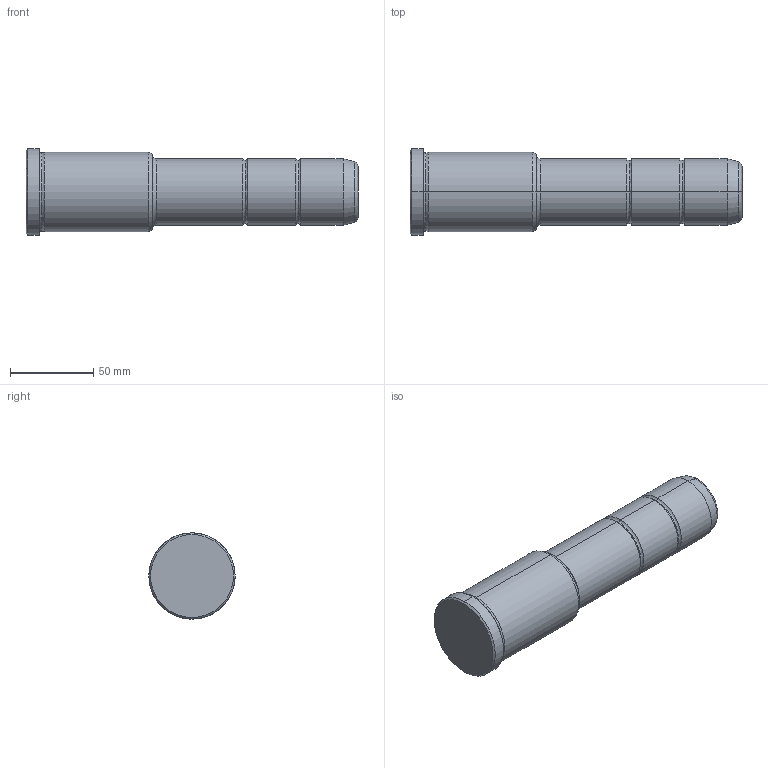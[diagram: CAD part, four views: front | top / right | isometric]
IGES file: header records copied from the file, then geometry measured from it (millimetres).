
Start section: START RECORD GO HERE.
Global section: file name: 351-40X76X200.igs; native system: DASSAULT SYSTEMES CATIA V5 R20 - www.3ds.com; preprocessor: CATIA Version 5 Release 20 ; author: Utente; organization: NB04-ASUS; date: 20211008.084141; units: millimetre
Bounding box: 200 x 52 x 52 mm (x, y, z)
Surface area: 30838.7 mm2 (no closed solid volume)
Topology: 0 solids, 0 shells, 36 faces, 204 edges, 204 vertices
Faces by surface type: revolution 32, plane 4
